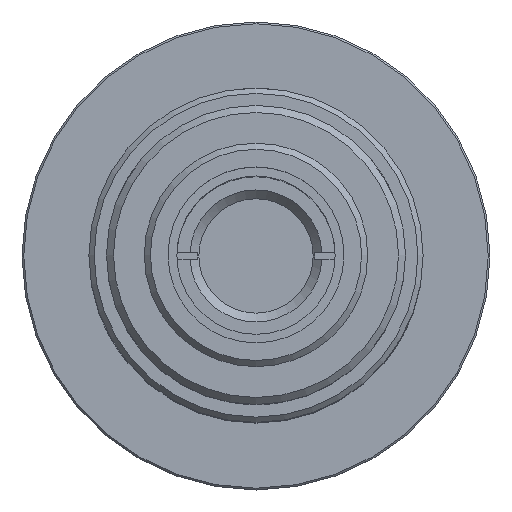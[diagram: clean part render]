
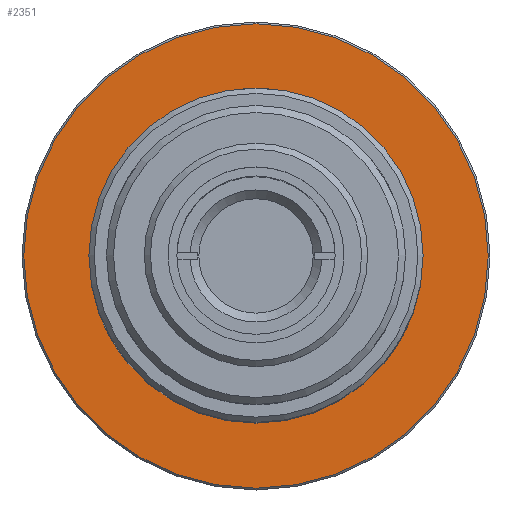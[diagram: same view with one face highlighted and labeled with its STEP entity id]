
A CAD part, top view. The second image highlights one B-rep face of the part: STEP entity #2351.
In plain terms, the highlighted planar face has unit normal (0, 0, 1).
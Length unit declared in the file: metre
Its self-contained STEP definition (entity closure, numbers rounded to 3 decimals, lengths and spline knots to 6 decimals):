
#2351=ADVANCED_FACE('836:7',(#5912,#5913),#5914,.T.);
#5912=FACE_BOUND('',#10488,.T.);
#5913=FACE_OUTER_BOUND('',#10489,.T.);
#5914=PLANE('',#10490);
#10488=EDGE_LOOP('',(#17822));
#10489=EDGE_LOOP('',(#17823));
#10490=AXIS2_PLACEMENT_3D('',#17824,#17825,#17826);
#17822=ORIENTED_EDGE('',*,*,#36602,.F.);
#17823=ORIENTED_EDGE('',*,*,#36603,.F.);
#17824=CARTESIAN_POINT('',(0.,0.0,0.098));
#17825=DIRECTION('',(0.0,0.0,1.0));
#17826=DIRECTION('',(1.0,0.0,0.0));
#36602=EDGE_CURVE('836:462',#42837,#42837,#42838,.T.);
#36603=EDGE_CURVE('835:2735',#42839,#42839,#42840,.T.);
#42837=VERTEX_POINT('',#51572);
#42838=CIRCLE('',#51573,0.019);
#42839=VERTEX_POINT('',#51574);
#42840=CIRCLE('',#51575,0.0264);
#51572=CARTESIAN_POINT('',(0.019,0.,0.098));
#51573=AXIS2_PLACEMENT_3D('',#59284,#59285,#59286);
#51574=CARTESIAN_POINT('',(-0.0264,0.,0.098));
#51575=AXIS2_PLACEMENT_3D('',#59287,#59288,#59289);
#59284=CARTESIAN_POINT('',(0.0,0.0,0.098));
#59285=DIRECTION('',(0.0,0.0,1.0));
#59286=DIRECTION('',(1.0,0.,0.0));
#59287=CARTESIAN_POINT('',(0.0,0.0,0.098));
#59288=DIRECTION('',(-0.0,0.0,-1.0));
#59289=DIRECTION('',(-1.0,0.,0.0));
